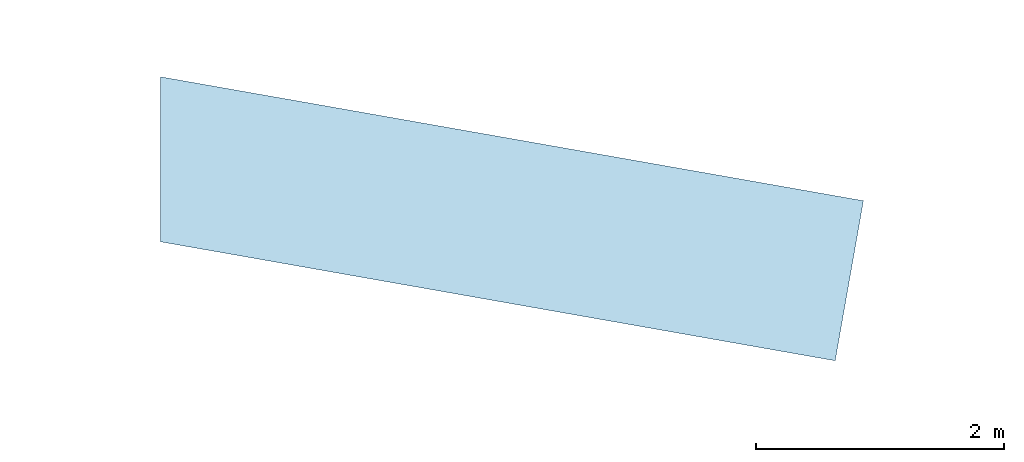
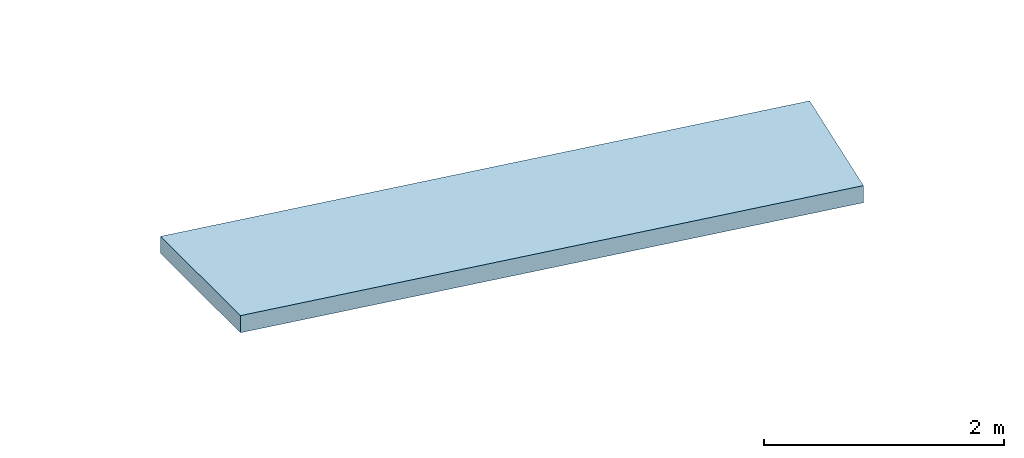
# One storey, part 5 of 5: 1 slab.
"""IFC2X3 building model written with IfcOpenShell, lengths in millimetres."""

import ifcopenshell
import ifcopenshell.guid

model = None  # the IFC model being written
_history = None  # IfcOwnerHistory: only IFC2X3 demands one
_inside = {}  # id of a spatial element -> (the spatial element, [elements in it])
_under = {}  # id of a project, library or spatial element -> (it, [spatial elements below it])
_declared = {}  # id of a project -> (the project, [libraries it declares])
_typed = {}  # id of a type object -> (the type object, [elements of that type])
_made_of = {}  # id of a material, layer set ... -> (it, [elements and type objects made of it])


def new_model(schema):
    """Start an empty IFC model of exactly this schema.

    Asked for "IFC4X3", IfcOpenShell would pick the latest addendum, in which some entities
    have other attributes; the version numbers below select the first issue.
    IFC2X3 requires an IfcOwnerHistory on every rooted entity: one is made here for all.
    """
    global model, _history
    if schema == "IFC4X3":
        model = ifcopenshell.file(schema_version=(4, 3, 0, 0))
    else:
        model = ifcopenshell.file(schema=schema)
    _inside.clear()
    _under.clear()
    _declared.clear()
    _typed.clear()
    _made_of.clear()
    _history = None
    if model.schema == "IFC2X3":
        org = make("IfcOrganization", Name="unknown")
        user = make(
            "IfcPersonAndOrganization",
            ThePerson=make("IfcPerson", FamilyName="unknown"),
            TheOrganization=org,
        )
        app = make(
            "IfcApplication",
            ApplicationDeveloper=org,
            Version="unknown",
            ApplicationFullName="unknown",
            ApplicationIdentifier="unknown",
        )
        _history = make(
            "IfcOwnerHistory",
            OwningUser=user,
            OwningApplication=app,
            ChangeAction="ADDED",
            CreationDate=0,
        )
    return model


def make(cls, **values):
    """One entity of the class cls with the attributes given. An attribute that is None is left unset."""
    return model.create_entity(
        cls, **{name: value for name, value in values.items() if value is not None}
    )


def entity(cls, *values):
    """Any entity or typed value of the class cls, its attributes in the order of the schema. None: left unset."""
    e = model.create_entity(cls)
    for i, value in enumerate(values):
        if value is not None:
            e[i] = value
    return e


def rooted(cls, **values):
    """An entity with a GlobalId (a new one), such as an element, a storey or a relation."""
    return make(cls, GlobalId=ifcopenshell.guid.new(), OwnerHistory=_history, **values)


def si_unit(unit_type, name, prefix=None):
    """IfcSIUnit, for example si_unit("LENGTHUNIT", "METRE", prefix="MILLI")."""
    return make("IfcSIUnit", UnitType=unit_type, Prefix=prefix, Name=name)


def converted_unit(unit_type, name, factor, base, dimensions=None, offset=None):
    """IfcConversionBasedUnit, such as the inch: factor (a typed value) times the base unit."""
    return make(
        "IfcConversionBasedUnit"
        if offset is None
        else "IfcConversionBasedUnitWithOffset",
        ConversionOffset=offset,
        Dimensions=None
        if dimensions is None
        else entity("IfcDimensionalExponents", *dimensions),
        UnitType=unit_type,
        Name=name,
        ConversionFactor=make(
            "IfcMeasureWithUnit", ValueComponent=factor, UnitComponent=base
        ),
    )


def derived_unit(unit_type, elements):
    """IfcDerivedUnit: a product of units, each with its exponent."""
    return make(
        "IfcDerivedUnit",
        Elements=[
            make("IfcDerivedUnitElement", Unit=unit, Exponent=power)
            for unit, power in elements
        ],
        UnitType=unit_type,
    )


def assignment(units):
    """IfcUnitAssignment: the units of a project."""
    return None if units is None else make("IfcUnitAssignment", Units=units)


def point(xyz):
    """IfcCartesianPoint."""
    return None if xyz is None else make("IfcCartesianPoint", Coordinates=xyz)


def direction(xyz):
    """IfcDirection."""
    return None if xyz is None else make("IfcDirection", DirectionRatios=xyz)


def frame(location, z_axis=None, x_axis=None):
    """IfcAxis2Placement3D, a coordinate frame: its origin and axes. An axis left out is left unset."""
    return make(
        "IfcAxis2Placement3D",
        Location=point(location),
        Axis=direction(z_axis),
        RefDirection=direction(x_axis),
    )


def origin():
    """The frame at (0, 0, 0) with its axes left unset."""
    return frame((0.0, 0.0, 0.0))


def place(relative_to, where):
    """IfcLocalPlacement: puts the frame where relative to a parent placement (None: the world)."""
    return make(
        "IfcLocalPlacement", PlacementRelTo=relative_to, RelativePlacement=where
    )


def context(
    kind, dimensions, precision=None, world=None, true_north=None, identifier=None
):
    """IfcGeometricRepresentationContext, for example the 3D "Model" context."""
    return make(
        "IfcGeometricRepresentationContext",
        ContextIdentifier=identifier,
        ContextType=kind,
        CoordinateSpaceDimension=dimensions,
        Precision=precision,
        WorldCoordinateSystem=world,
        TrueNorth=true_north,
    )


def subcontext(parent, identifier, kind, view, scale=None):
    """IfcGeometricRepresentationSubContext, for example "Body" below "Model"."""
    return make(
        "IfcGeometricRepresentationSubContext",
        ContextIdentifier=identifier,
        ContextType=kind,
        ParentContext=parent,
        TargetScale=scale,
        TargetView=view,
    )


def project(units=None, contexts=None):
    """IfcProject with its units and contexts."""
    return rooted(
        "IfcProject",
        Name="project",
        RepresentationContexts=contexts,
        UnitsInContext=assignment(units),
    )


def spatial(cls, under=None, at=None, **own):
    """A site, building, storey or space (cls), placed at a placement, below another one or the project."""
    s = rooted(cls, ObjectPlacement=at, **own)
    if under is not None:
        _under.setdefault(under.id(), (under, []))[1].append(s)
    return s


def polyline(points):
    """IfcPolyline through the points."""
    return make("IfcPolyline", Points=[point(p) for p in points])


def outline(outer, holes=None, kind="AREA"):
    """IfcArbitraryClosedProfileDef: a profile drawn as a closed curve; with holes, ...WithVoids."""
    if holes is None:
        return make("IfcArbitraryClosedProfileDef", ProfileType=kind, OuterCurve=outer)
    return make(
        "IfcArbitraryProfileDefWithVoids",
        ProfileType=kind,
        OuterCurve=outer,
        InnerCurves=holes,
    )


def extrude(swept, where, along, depth):
    """IfcExtrudedAreaSolid: the profile swept, set in the frame where, extruded along a direction by depth."""
    return make(
        "IfcExtrudedAreaSolid",
        SweptArea=swept,
        Position=where,
        ExtrudedDirection=direction(along),
        Depth=depth,
    )


def shape(context_of_items, identifier, shape_type, items):
    """IfcShapeRepresentation: the items that make up one representation, for example the "Body"."""
    return make(
        "IfcShapeRepresentation",
        ContextOfItems=context_of_items,
        RepresentationIdentifier=identifier,
        RepresentationType=shape_type,
        Items=items,
    )


def material(Name=None, Category=None):
    """IfcMaterial."""
    return make("IfcMaterial", Name=Name, Category=Category)


def layer(
    of_material, thickness, ventilated=None, Name=None, Category=None, Priority=None
):
    """IfcMaterialLayer: one layer of a wall or slab, of a material (None: an air gap)."""
    return make(
        "IfcMaterialLayer",
        Material=of_material,
        LayerThickness=thickness,
        IsVentilated=ventilated,
        Name=Name,
        Category=Category,
        Priority=Priority,
    )


def layer_set(layers, Name=None):
    """IfcMaterialLayerSet."""
    return make("IfcMaterialLayerSet", MaterialLayers=layers, LayerSetName=Name)


def layer_usage(for_layer_set, set_direction, sense, offset, extent=None):
    """IfcMaterialLayerSetUsage: how a layer set lies in its element."""
    return make(
        "IfcMaterialLayerSetUsage",
        ForLayerSet=for_layer_set,
        LayerSetDirection=set_direction,
        DirectionSense=sense,
        OffsetFromReferenceLine=offset,
        ReferenceExtent=extent,
    )


def made_of(thing, what):
    """Note that an element or type object is made of a material, layer set ...; save() writes the relation."""
    if what is not None:
        _made_of.setdefault(what.id(), (what, []))[1].append(thing)
    return thing


def type_object(cls, material=None, **own):
    """A type object (cls), such as IfcWallType, which elements share."""
    return made_of(rooted(cls, **own), material)


def element(
    cls,
    number,
    at=None,
    inside=None,
    cuts=None,
    type_object=None,
    material=None,
    context=None,
    identifier="Body",
    shape_type=None,
    held_by="IfcProductDefinitionShape",
    body=None,
    shapes=None,
    **own,
):
    """One element of the class cls, such as IfcWall. Its Tag is "e" and its number.

    at: its placement. inside: the storey or other place that contains it. cuts: it is an
    opening in that element (IfcRelVoidsElement). A single representation is given by context,
    identifier, shape_type and body (its items); several are given by shapes. held_by: the class
    of the entity that holds the representations. save() writes the other relations.
    """
    e = rooted(cls, Tag="e%d" % number, ObjectPlacement=at, **own)
    if body is not None:
        shapes = [shape(context, identifier, shape_type, body)]
    if shapes is not None:
        e.Representation = make(held_by, Representations=shapes)
    if inside is not None:
        _inside.setdefault(inside.id(), (inside, []))[1].append(e)
    if cuts is not None:
        rooted(
            "IfcRelVoidsElement", RelatingBuildingElement=cuts, RelatedOpeningElement=e
        )
    if type_object is not None:
        _typed.setdefault(type_object.id(), (type_object, []))[1].append(e)
    return made_of(e, material)


def aggregate(whole, parts):
    """IfcRelAggregates: a whole, such as a stair, and the parts it consists of."""
    return rooted("IfcRelAggregates", RelatingObject=whole, RelatedObjects=parts)


def save(model, path):
    """Write the relations noted so far, then the file.

    IfcRelAggregates (storeys below a building ...), IfcRelContainedInSpatialStructure (elements
    in a storey), IfcRelDefinesByType, IfcRelAssociatesMaterial and IfcRelDeclares: one each for
    every whole, place, type object, material and project.
    """
    for whole, parts in _under.values():
        aggregate(whole, parts)
    for where, things in _inside.values():
        rooted(
            "IfcRelContainedInSpatialStructure",
            RelatedElements=things,
            RelatingStructure=where,
        )
    for kind, things in _typed.values():
        rooted("IfcRelDefinesByType", RelatedObjects=things, RelatingType=kind)
    for what, things in _made_of.values():
        rooted("IfcRelAssociatesMaterial", RelatedObjects=things, RelatingMaterial=what)
    for by, libraries in _declared.values():
        rooted("IfcRelDeclares", RelatingContext=by, RelatedDefinitions=libraries)
    model.write(path)


model = new_model("IFC2X3")

# Units and contexts
model_context = context("Model", 3, precision=0.01, world=origin(), true_north=direction((6.12303176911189e-17, 1.0)))
context_of_model = context(None, 3, precision=0.01, world=origin(), true_north=direction((6.12303176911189e-17, 1.0)))
body_context = subcontext(model_context, "Body", "Model", "MODEL_VIEW")
ifc_project = project(units=[si_unit("LENGTHUNIT", "METRE", prefix="MILLI"), si_unit("AREAUNIT", "SQUARE_METRE"), si_unit("VOLUMEUNIT", "CUBIC_METRE"), converted_unit("PLANEANGLEUNIT", "DEGREE", entity("IfcRatioMeasure", 0.0174532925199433), si_unit("PLANEANGLEUNIT", "RADIAN"), dimensions=[0, 0, 0, 0, 0, 0, 0]), si_unit("MASSUNIT", "GRAM", prefix="KILO"), derived_unit("MASSDENSITYUNIT", [(si_unit("MASSUNIT", "GRAM", prefix="KILO"), 1), (si_unit("LENGTHUNIT", "METRE"), -3)]), derived_unit("MOMENTOFINERTIAUNIT", [(si_unit("LENGTHUNIT", "METRE"), 4)]), si_unit("TIMEUNIT", "SECOND"), si_unit("FREQUENCYUNIT", "HERTZ"), si_unit("THERMODYNAMICTEMPERATUREUNIT", "DEGREE_CELSIUS"), derived_unit("THERMALTRANSMITTANCEUNIT", [(si_unit("MASSUNIT", "GRAM", prefix="KILO"), 1), (si_unit("THERMODYNAMICTEMPERATUREUNIT", "KELVIN"), -1), (si_unit("TIMEUNIT", "SECOND"), -3)]), derived_unit("VOLUMETRICFLOWRATEUNIT", [(si_unit("LENGTHUNIT", "METRE"), 3), (si_unit("TIMEUNIT", "SECOND"), -1)]), si_unit("ELECTRICCURRENTUNIT", "AMPERE"), si_unit("ELECTRICVOLTAGEUNIT", "VOLT"), si_unit("POWERUNIT", "WATT"), si_unit("FORCEUNIT", "NEWTON", prefix="KILO"), si_unit("ILLUMINANCEUNIT", "LUX"), si_unit("LUMINOUSFLUXUNIT", "LUMEN"), si_unit("LUMINOUSINTENSITYUNIT", "CANDELA"), derived_unit("USERDEFINED", [(si_unit("MASSUNIT", "GRAM", prefix="KILO"), -1), (si_unit("LENGTHUNIT", "METRE"), -2), (si_unit("TIMEUNIT", "SECOND"), 3), (si_unit("LUMINOUSFLUXUNIT", "LUMEN"), 1)]), derived_unit("LINEARVELOCITYUNIT", [(si_unit("LENGTHUNIT", "METRE"), 1), (si_unit("TIMEUNIT", "SECOND"), -1)]), si_unit("PRESSUREUNIT", "PASCAL"), derived_unit("USERDEFINED", [(si_unit("LENGTHUNIT", "METRE"), -2), (si_unit("MASSUNIT", "GRAM", prefix="KILO"), 1), (si_unit("TIMEUNIT", "SECOND"), -2)]), derived_unit("LINEARFORCEUNIT", [(si_unit("MASSUNIT", "GRAM", prefix="KILO"), 1), (si_unit("LENGTHUNIT", "METRE"), 1), (si_unit("TIMEUNIT", "SECOND"), -2), (si_unit("LENGTHUNIT", "METRE"), -1)]), derived_unit("PLANARFORCEUNIT", [(si_unit("MASSUNIT", "GRAM", prefix="KILO"), 1), (si_unit("LENGTHUNIT", "METRE"), 1), (si_unit("TIMEUNIT", "SECOND"), -2), (si_unit("LENGTHUNIT", "METRE"), -2)])], contexts=[model_context, context_of_model])

# Site, building, storey
site_placement = place(None, origin())
site = spatial("IfcSite", under=ifc_project, at=site_placement, Name="Default", CompositionType="ELEMENT")
building_placement = place(site_placement, origin())
building = spatial("IfcBuilding", under=site, at=building_placement, Name="IFc", CompositionType="ELEMENT")
storey_placement = place(building_placement, frame((0.0, 0.0, 3000.0)))
storey = spatial("IfcBuildingStorey", under=building, at=storey_placement, Name="01 1e verd. b.k. ruwe vloer", CompositionType="ELEMENT", Elevation=3000.00000000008)

# Slab
ifc_material_1 = material(Name="IMd_underlayment")
ifc_layer_1 = layer(ifc_material_1, 18.0)
ifc_material_2 = material(Name="IMd_hout")
ifc_layer_2 = layer(ifc_material_2, 156.0)
ifc_layer_set = layer_set([ifc_layer_1, ifc_layer_2], Name="Floor:NLRS_23_FL Houten_balklaag_59x156+underlayment_d=18")
ifc_layer_usage = layer_usage(ifc_layer_set, "AXIS3", "POSITIVE", 0.0)
slab_type = type_object("IfcSlabType", Name="Floor:NLRS_23_FL Houten_balklaag_59x156+underlayment_d=18", PredefinedType="FLOOR", material=ifc_layer_set)
slab_placement = place(storey_placement, origin())
element("IfcSlab", 1, at=slab_placement, inside=storey, type_object=slab_type, material=ifc_layer_usage, Name="Floor:NLRS_23_FL Houten_balklaag_59x156+underlayment_d=18", ObjectType="Floor:NLRS_23_FL Houten_balklaag_59x156+underlayment_d=18", PredefinedType="FLOOR", context=body_context, shape_type="SweptSolid", body=[
    extrude(outline(polyline([(-175.517364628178, -2774.32507699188), (1153.89409328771, -2774.32507699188), (155.474034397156, 2887.99645133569), (-1133.85076305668, 2660.65370264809), (-175.517364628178, -2774.32507699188)])), frame((20105.3250769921, 14034.0651680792, -2.0), z_axis=(0.0, 0.0, -1.0), x_axis=(0.0, 1.0, 0.0)), (0.0, 0.0, 1.0), 174.0),
])

save(model, "model.ifc")
